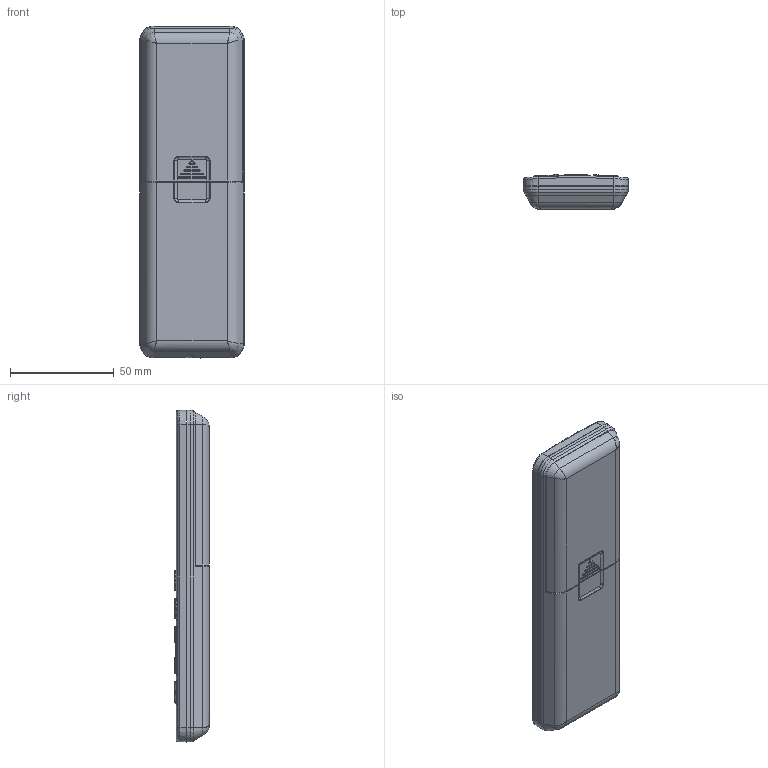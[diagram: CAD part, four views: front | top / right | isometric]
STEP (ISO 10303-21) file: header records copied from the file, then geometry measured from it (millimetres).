
FILE_DESCRIPTION((''),'2;1');
FILE_NAME('TX32','2025-05-15T',('USER'),(''),'PRO/ENGINEER BY PARAMETRIC TECHNOLOGY CORPORATION, 2016240','PRO/ENGINEER BY PARAMETRIC TECHNOLOGY CORPORATION, 2016240','');
FILE_SCHEMA(('CONFIG_CONTROL_DESIGN'));
Length unit declared in the file: millimetre
Products named in the file (1): TX32
Bounding box: 50.5 x 16.68 x 160 mm (x, y, z)
Surface area: 24567 mm2 (no closed solid volume)
Topology: 0 solids, 28 shells, 612 faces, 2432 edges, 1764 vertices
Faces by surface type: bspline 166, plane 142, cylinder 127, cone 108, torus 26, extrusion 21, revolution 17, sphere 5
Entity records: 38095 total; most frequent: CARTESIAN_POINT 20740, ORIENTED_EDGE 3501, DIRECTION 2748, EDGE_CURVE 2426, VERTEX_POINT 1764, B_SPLINE_CURVE_WITH_KNOTS 1095, AXIS2_PLACEMENT_3D 933, VECTOR 865
